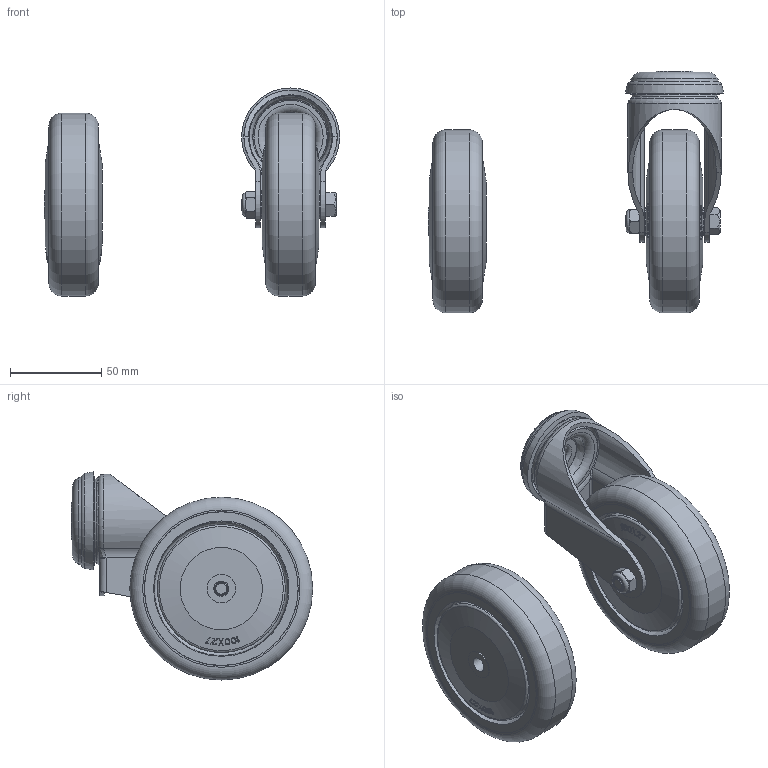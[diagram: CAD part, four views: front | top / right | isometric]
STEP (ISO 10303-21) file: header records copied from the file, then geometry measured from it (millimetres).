
FILE_DESCRIPTION(('STEP AP203'),'1');
FILE_NAME('E:/Pomoc/Strongo/344a39J100rZLC.stp',' ',(' '),(' '),'XStep 1.0',' ',' ');
FILE_SCHEMA(('CONFIG_CONTROL_DESIGN'));
Length unit declared in the file: metre
Products named in the file (3): Next assembly relationship; Assembly70; Assembly94
Bounding box: 161.37 x 132 x 113.8 mm (x, y, z)
Volume: 356531.1 mm3; surface area: 231091.9 mm2
Topology: 128 solids, 128 shells, 3367 faces, 9359 edges, 6164 vertices
Faces by surface type: plane 2505, cylinder 309, torus 201, cone 195, sphere 106, bspline 45, revolution 4, extrusion 2
Full cylindrical faces by diameter (mm): 2.076 x4, 4.014 x2, 7 x1, 8 x19, 8.2 x4, 10.5 x2, 12 x6, 12.5 x1, 14 x2, 14.3 x4, 15.6 x4, 16.5 x4, 18 x4, 21.58 x2, 22 x2, 26 x4, 29 x4, 31.8 x2, 32 x4, 40 x2, 66.6 x4, 70 x4, 84 x2, 100 x2
Entity records: 55029 total; most frequent: CARTESIAN_POINT 17489, ORIENTED_EDGE 7970, DIRECTION 7083, EDGE_CURVE 3985, VECTOR 3025, LINE 3024, VERTEX_POINT 2669, AXIS2_PLACEMENT_3D 2028
